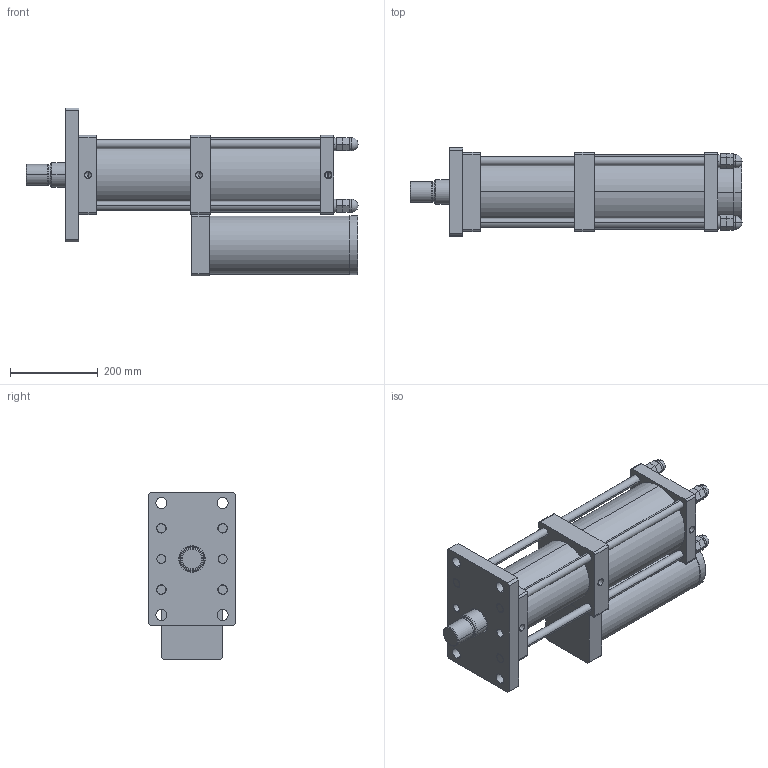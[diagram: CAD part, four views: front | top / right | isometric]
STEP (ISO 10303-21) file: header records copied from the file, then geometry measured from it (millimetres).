
FILE_DESCRIPTION (( 'STEP AP203' ), '1' );
FILE_NAME ('MPT-125-150-15-15T.STEP', '2016-03-12T01:26:28', ( 'WIN' ), ( '' ), 'SwSTEP 2.0', 'SolidWorks 2014', '' );
FILE_SCHEMA (( 'CONFIG_CONTROL_DESIGN' ));
Length unit declared in the file: millimetre
Products named in the file (1): MPT-125-150-15-15T
Bounding box: 756 x 200 x 382.5 mm (x, y, z)
Volume: 17075488.1 mm3; surface area: 1262128.1 mm2
Topology: 17 solids, 17 shells, 321 faces, 732 edges, 458 vertices
Faces by surface type: plane 155, cylinder 124, cone 30, sphere 8, torus 4
Entity records: 8969 total; most frequent: DIRECTION 1654, CARTESIAN_POINT 1480, ORIENTED_EDGE 1416, EDGE_CURVE 708, AXIS2_PLACEMENT_3D 624, VERTEX_POINT 450, LINE 406, VECTOR 406
